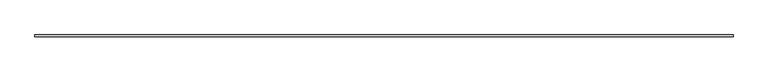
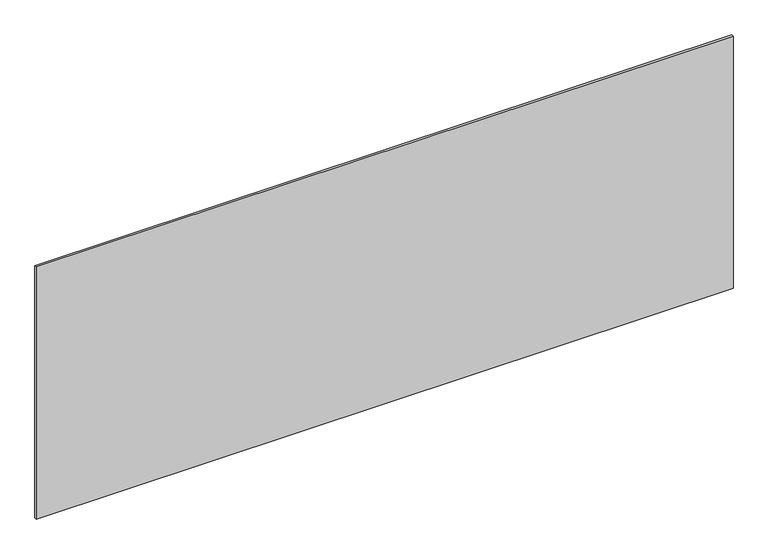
"""IFC4 building model written with IfcOpenShell, lengths in millimetres: plate geometry, システム パネル : 標準."""

from ifc_helpers import new_model, si_unit, origin, origin_with_axes, place, context, project, spatial, polyline, outline, extrude, source, transform, mapped, element, save


def plate_88d5d3b8(model_context):
    return source(origin(), model_context, "Body", "SweptSolid", [
        extrude(outline(polyline([(1715.0, -5.0), (-1715.0, -5.0), (-1715.0, 5.0), (1715.0, 5.0), (1715.0, -5.0)])), origin_with_axes(), (0.0, 0.0, 1.0), 1312.0052046),
    ])


if __name__ == "__main__":
    model = new_model("IFC4")
    model_context = context("Model", 3, world=origin())
    ifc_project = project(units=[si_unit("LENGTHUNIT", "METRE", prefix="MILLI")], contexts=[model_context])
    site = spatial("IfcSite", under=ifc_project)
    building = spatial("IfcBuilding", under=site)
    placement = place(None, origin())
    plate_shape = plate_88d5d3b8(model_context)
    element("IfcPlate", 1, ObjectType="システム パネル : 標準", at=placement, inside=building, context=model_context, shape_type="MappedRepresentation", body=[
        mapped(plate_shape, transform((0.0, 0.0, 0.0), x_axis=(1.0, 0.0, 0.0), y_axis=(0.0, 1.0, 0.0), z_axis=(0.0, 0.0, 1.0))),
    ])
    save(model, "model.ifc")
